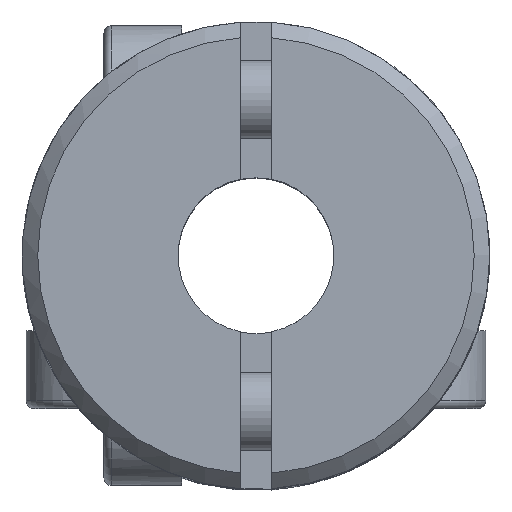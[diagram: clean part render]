
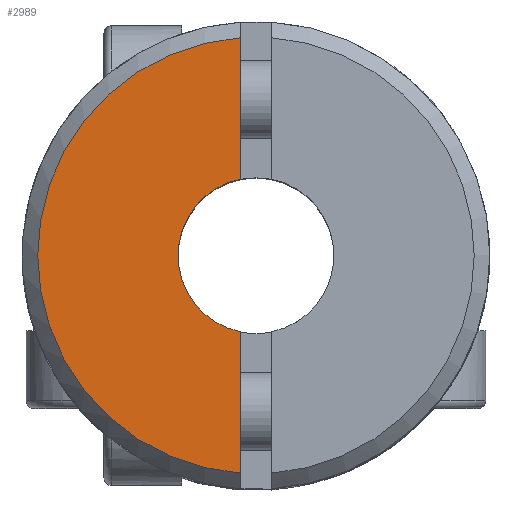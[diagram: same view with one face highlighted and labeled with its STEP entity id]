
A CAD part, top view. The second image highlights one B-rep face of the part: STEP entity #2989.
In plain terms, the highlighted planar face has unit normal (0, 0, 1).
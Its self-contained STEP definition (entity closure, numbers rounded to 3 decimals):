
#16 = DIRECTION ( 'NONE',  ( 0., -1., 0. ) ) ;
#321 = LINE ( 'NONE', #671, #814 ) ;
#352 = DIRECTION ( 'NONE',  ( 0., -1., 0. ) ) ;
#455 = DIRECTION ( 'NONE',  ( 0., 0., 1. ) ) ;
#461 = VERTEX_POINT ( 'NONE', #2460 ) ;
#671 = CARTESIAN_POINT ( 'NONE',  ( -0.4, 15., 9.25 ) ) ;
#784 = DIRECTION ( 'NONE',  ( 0., 0., -1. ) ) ;
#803 = CARTESIAN_POINT ( 'NONE',  ( -0.4, 5.586, 9.25 ) ) ;
#814 = VECTOR ( 'NONE', #352, 1000. ) ;
#853 = EDGE_CURVE ( 'NONE', #2507, #461, #1808, .T. ) ;
#884 = ORIENTED_EDGE ( 'NONE', *, *, #3457, .F. ) ;
#916 = AXIS2_PLACEMENT_3D ( 'NONE', #4443, #455, #2684 ) ;
#1009 = VERTEX_POINT ( 'NONE', #803 ) ;
#1040 = EDGE_CURVE ( 'NONE', #1009, #2345, #2113, .T. ) ;
#1703 = PLANE ( 'NONE',  #2760 ) ;
#1749 = LINE ( 'NONE', #3891, #1795 ) ;
#1795 = VECTOR ( 'NONE', #16, 1000. ) ;
#1808 = CIRCLE ( 'NONE', #4402, 2. ) ;
#2026 = FACE_OUTER_BOUND ( 'NONE', #2256, .T. ) ;
#2113 = CIRCLE ( 'NONE', #916, 5.6 ) ;
#2208 = DIRECTION ( 'NONE',  ( 0., 1., 0. ) ) ;
#2256 = EDGE_LOOP ( 'NONE', ( #4067, #2280, #3879, #884 ) ) ;
#2280 = ORIENTED_EDGE ( 'NONE', *, *, #4557, .F. ) ;
#2345 = VERTEX_POINT ( 'NONE', #3827 ) ;
#2460 = CARTESIAN_POINT ( 'NONE',  ( -0.4, -1.96, 9.25 ) ) ;
#2507 = VERTEX_POINT ( 'NONE', #3204 ) ;
#2536 = CARTESIAN_POINT ( 'NONE',  ( 0., 2., 9.25 ) ) ;
#2684 = DIRECTION ( 'NONE',  ( 0., 1., 0. ) ) ;
#2760 = AXIS2_PLACEMENT_3D ( 'NONE', #2536, #784, #2208 ) ;
#2989 = ADVANCED_FACE ( 'NONE', ( #2026 ), #1703, .F. ) ;
#3071 = DIRECTION ( 'NONE',  ( 0., -1., 0. ) ) ;
#3204 = CARTESIAN_POINT ( 'NONE',  ( -0.4, 1.96, 9.25 ) ) ;
#3457 = EDGE_CURVE ( 'NONE', #1009, #2507, #321, .T. ) ;
#3723 = DIRECTION ( 'NONE',  ( 0., 0., 1. ) ) ;
#3827 = CARTESIAN_POINT ( 'NONE',  ( -0.4, -5.586, 9.25 ) ) ;
#3879 = ORIENTED_EDGE ( 'NONE', *, *, #853, .F. ) ;
#3891 = CARTESIAN_POINT ( 'NONE',  ( -0.4, 15., 9.25 ) ) ;
#4067 = ORIENTED_EDGE ( 'NONE', *, *, #1040, .T. ) ;
#4402 = AXIS2_PLACEMENT_3D ( 'NONE', #4435, #3723, #3071 ) ;
#4435 = CARTESIAN_POINT ( 'NONE',  ( 0., 0., 9.25 ) ) ;
#4443 = CARTESIAN_POINT ( 'NONE',  ( 0., 0., 9.25 ) ) ;
#4557 = EDGE_CURVE ( 'NONE', #461, #2345, #1749, .T. ) ;
